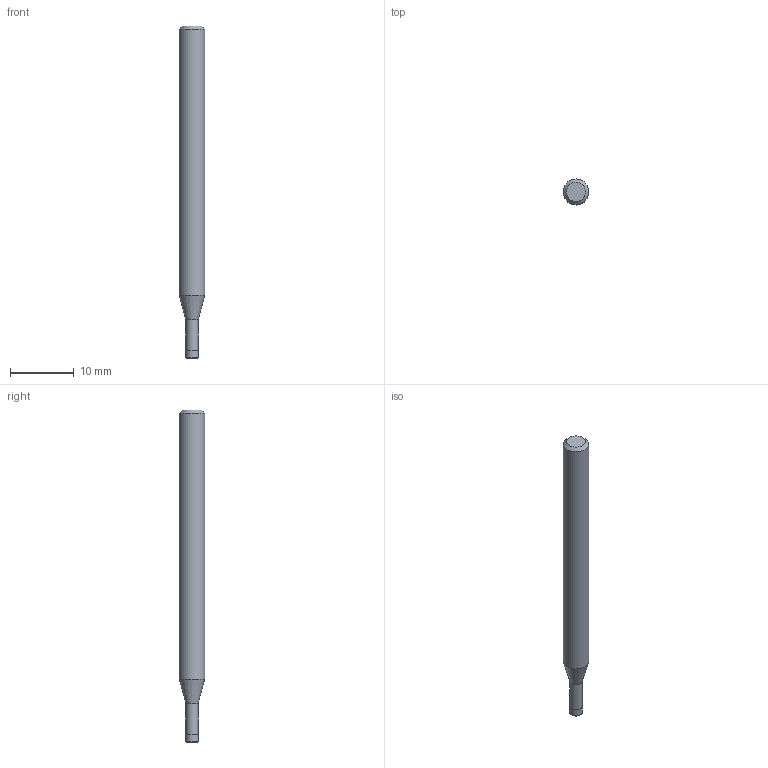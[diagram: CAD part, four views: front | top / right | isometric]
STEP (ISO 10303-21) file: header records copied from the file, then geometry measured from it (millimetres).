
FILE_DESCRIPTION((''),'2;1');
FILE_NAME('C:\Users\nsx150\AppData\Local\Temp\Mastercam 2021\LJSIDMOTM8\TEMP.step','2021-08-03T13:51:28',(''),(''),'STEP Write','Mastercam 2021 ... CNC Software, Inc.','');
FILE_SCHEMA(('AUTOMOTIVE_DESIGN'));
Length unit declared in the file: millimetre
Products named in the file (1): None
Bounding box: 4 x 4 x 52 mm (x, y, z)
Volume: 574 mm3; surface area: 621.2 mm2
Topology: 2 solids, 2 shells, 10 faces, 14 edges, 8 vertices
Faces by surface type: plane 4, cylinder 3, cone 2, torus 1
Full cylindrical faces by diameter (mm): 1.94 x1, 2 x1, 4 x1
Entity records: 232 total; most frequent: DIRECTION 40, CARTESIAN_POINT 28, AXIS2_PLACEMENT_3D 20, ORIENTED_EDGE 16, EDGE_LOOP 16, STYLED_ITEM 13, ADVANCED_FACE 10, FACE_BOUND 10
